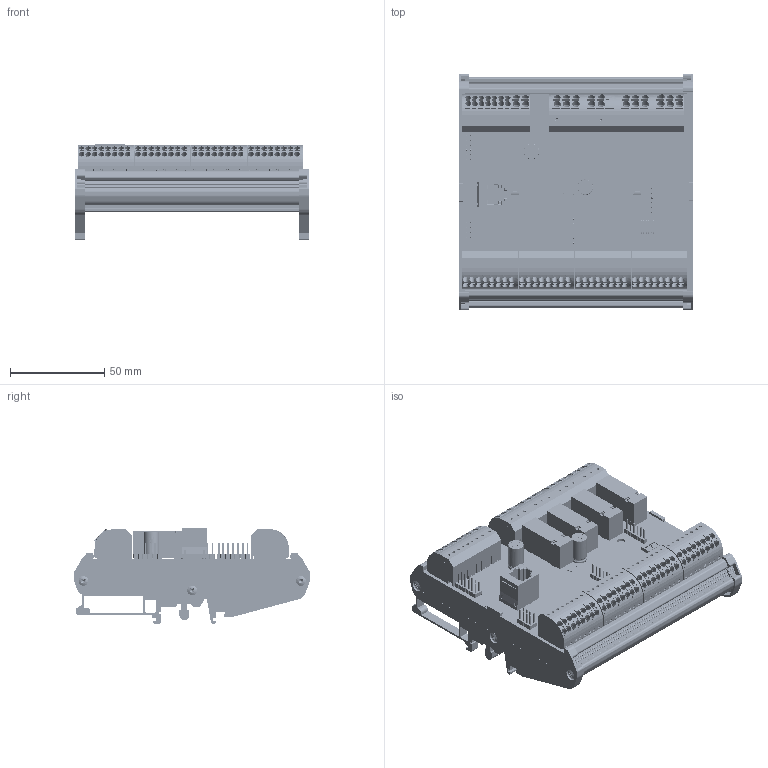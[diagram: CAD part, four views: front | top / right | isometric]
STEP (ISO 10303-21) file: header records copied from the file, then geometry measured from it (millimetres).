
FILE_DESCRIPTION(/* description */ (''),/* implementation_level */ '2;1');
FILE_NAME(/* name */ 'C:/Temp/STEP/MULTI-24_V371.step',/* time_stamp */ '2020-04-03T14:09:11+03:00',/* author */ (''),/* organization */ (''),/* preprocessor_version */ 'ST-DEVELOPER v18',/* originating_system */ 'Autodesk Translation Framework v8.12.0.6',/* authorisation */ '');
FILE_SCHEMA (('AUTOMOTIVE_DESIGN { 1 0 10303 214 3 1 1 }'));
Products named in the file (1): MULTI-24_V371
Bounding box: 124 x 125.6 x 50.45 mm (x, y, z)
Volume: 145379.3 mm3; surface area: 143401.9 mm2
Topology: 160 solids, 182 shells, 10115 faces, 28662 edges, 19205 vertices
Faces by surface type: plane 6155, cylinder 3413, cone 358, bspline 143, torus 36, sphere 10
Full cylindrical faces by diameter (mm): 0.457 x6, 0.5 x6, 0.6 x4, 0.63 x8, 0.8 x4, 0.9 x4, 1 x120, 1.1 x4, 1.2 x108, 1.3 x112, 1.31 x67, 1.5 x16, 1.71 x54, 2.404 x6, 3 x80, 3.3 x2, 3.4 x6, 4.2 x2, 5.15 x6, 6 x6, 7 x2, 8.2 x2
Entity records: 416631 total; most frequent: CARTESIAN_POINT 137394, ORIENTED_EDGE 56861, DIRECTION 55979, EDGE_CURVE 28536, VERTEX_POINT 19205, AXIS2_PLACEMENT_3D 18912, LINE 18155, VECTOR 18155
